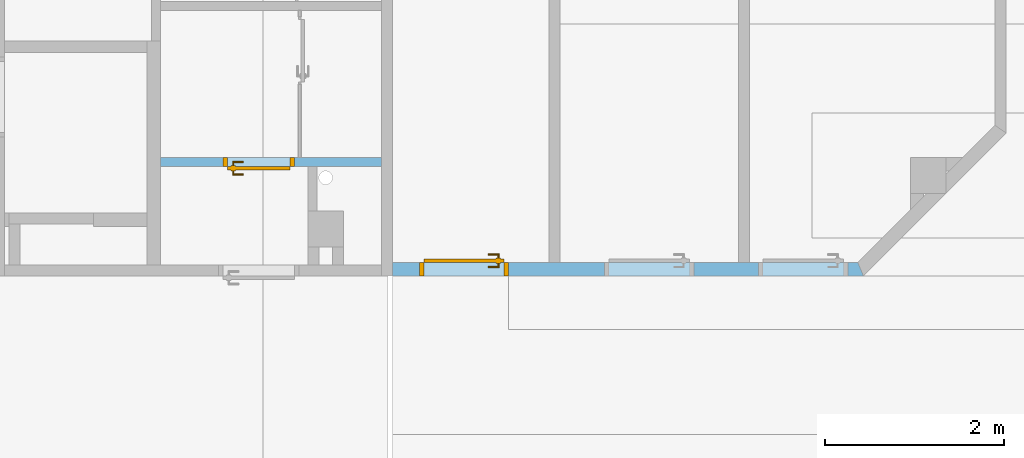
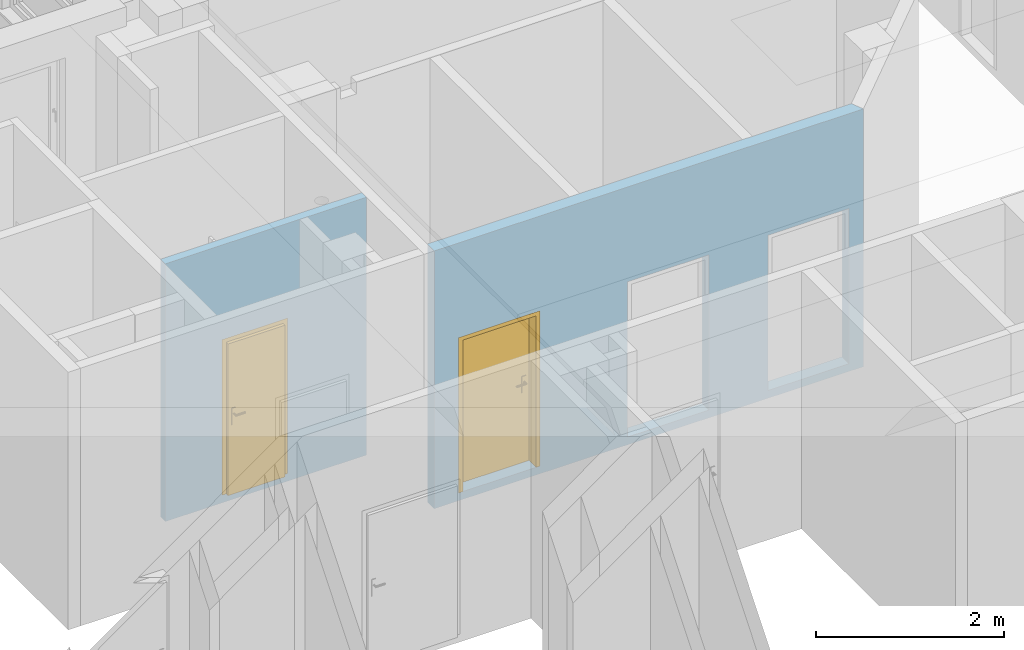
# One storey, part 80 of 140: 2 doors, 4 openings, plus 2 elements that do not belong to this part.
"""IFC4 building model written with IfcOpenShell, lengths in metres."""

from ifc_helpers import new_model, entity, si_unit, converted_unit, derived_unit, frame, frame_2d, origin, origin_with_axes, place, context, subcontext, project, spatial, polyline, rectangle, outline, extrude, closed_shell, open_shell, surface_model, source, transform, mapped, material, layer, layer_set, layer_usage, type_object, element, fill, save


model = new_model("IFC4")

# Units and contexts
model_context = context("Model", 3, precision=1e-05, world=origin())
body_context = subcontext(model_context, "Body", "Model", "MODEL_VIEW")
ifc_project = project(units=[si_unit("LENGTHUNIT", "METRE"), si_unit("AREAUNIT", "SQUARE_METRE"), si_unit("VOLUMEUNIT", "CUBIC_METRE"), si_unit("MASSUNIT", "GRAM", prefix="KILO"), converted_unit("PLANEANGLEUNIT", "DEGREE", entity("IfcPlaneAngleMeasure", 0.0174532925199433), si_unit("PLANEANGLEUNIT", "RADIAN"), dimensions=[0, 0, 0, 0, 0, 0, 0]), derived_unit("THERMALTRANSMITTANCEUNIT", [(si_unit("POWERUNIT", "WATT"), 1), (si_unit("THERMODYNAMICTEMPERATUREUNIT", "KELVIN"), -1), (si_unit("LENGTHUNIT", "METRE"), -2)]), derived_unit("VOLUMETRICFLOWRATEUNIT", [(si_unit("LENGTHUNIT", "METRE"), 3), (converted_unit("TIMEUNIT", "hour", entity("IfcTimeMeasure", 3600.0), si_unit("TIMEUNIT", "SECOND"), dimensions=[0, 0, 1, 0, 0, 0, 0]), -1), (si_unit("LENGTHUNIT", "METRE"), -1)])], contexts=[model_context])

# Site, building, storey
site_placement = place(None, origin())
site = spatial("IfcSite", under=ifc_project, at=site_placement, Name="3. ASŘ", CompositionType="ELEMENT")
building_placement = place(site_placement, origin())
building = spatial("IfcBuilding", under=site, at=building_placement, Name="Pavilon C", CompositionType="ELEMENT")
storey_placement = place(building_placement, origin())
storey = spatial("IfcBuildingStorey", under=building, at=storey_placement, Name="Půdorys 1.NP", CompositionType="ELEMENT", Elevation=0.0)

# Wall, opening, door
ifc_material_1 = material(Name="YTONG 100")
ifc_layer_1 = layer(ifc_material_1, 0.1)
ifc_layer_set_1 = layer_set([ifc_layer_1])
ifc_layer_usage_1 = layer_usage(ifc_layer_set_1, "AXIS2", "POSITIVE", 0.0)
wall_1_placement = place(storey_placement, frame((22.15, 10.9, -0.1)))
wall_1 = element("IfcWall", 1, at=wall_1_placement, inside=storey, material=ifc_layer_usage_1, Name="YTONG 100", context=body_context, shape_type="SweptSolid", body=[
    extrude(rectangle(XDim=2.47499999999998, YDim=0.1, at=frame_2d((1.23749999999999, 0.05), x_axis=(1.0, 0.0))), origin_with_axes(), (0.0, 0.0, 1.0), 3.35),
])
opening_1_placement = place(wall_1_placement, frame((0.699999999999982, 0.0, 0.1), z_axis=(0.0, 1.0, 0.0), x_axis=(0.0, 0.0, 1.0)))
opening_1 = element("IfcOpeningElement", 2, at=opening_1_placement, cuts=wall_1, Name="Dveřní otvor", ObjectType="Opening", context=body_context, shape_type="SweptSolid", body=[
    extrude(outline(polyline([(0.0, 0.8), (2.02, 0.8), (2.02, 0.0), (0.0, 0.0), (0.0, 0.8)])), origin_with_axes(), (0.0, 0.0, 1.0), 0.1),
])
door_type_1 = type_object("IfcDoorType", Name="D101", OperationType="NOTDEFINED", ParameterTakesPrecedence=False, PredefinedType="DOOR")
shared_shape_1 = source(origin_with_axes(), body_context, "Body", "SurfaceModel", [
    surface_model("IfcShellBasedSurfaceModel", [(0.0, 0.1, 2.02), (0.0, 0.1, -6.12323399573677e-18), (0.05, 0.1, -6.12323399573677e-18), (0.05, 0.1, 2.02), (0.0, 0.0, 6.12323399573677e-18), (0.0, 2.41584530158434e-16, 2.02), (0.05, 2.41584530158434e-16, 2.02), (0.05, 0.0, 6.12323399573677e-18)], [closed_shell([[[0, 1, 2, 3]], [[4, 5, 6, 7]], [[1, 0, 5, 4]], [[2, 1, 4, 7]], [[3, 2, 7, 6]], [[0, 3, 6, 5]]], orient=[[False], [False], [False], [False], [False], [False]])]),
    surface_model("IfcShellBasedSurfaceModel", [(0.75, 0.1, 2.02), (0.75, 0.1, -6.12323399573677e-18), (0.8, 0.1, -6.12323399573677e-18), (0.8, 0.1, 2.02), (0.75, 0.0, 6.12323399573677e-18), (0.75, 2.41584530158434e-16, 2.02), (0.8, 2.41584530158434e-16, 2.02), (0.8, 0.0, 6.12323399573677e-18)], [closed_shell([[[0, 1, 2, 3]], [[4, 5, 6, 7]], [[1, 0, 5, 4]], [[2, 1, 4, 7]], [[3, 2, 7, 6]], [[0, 3, 6, 5]]], orient=[[False], [False], [False], [False], [False], [False]])]),
    surface_model("IfcShellBasedSurfaceModel", [(0.05, 0.1, 2.02), (0.05, 0.1, 1.97), (0.75, 0.1, 1.97), (0.75, 0.1, 2.02), (0.05, 2.41584530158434e-16, 1.97), (0.05, 2.41584530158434e-16, 2.02), (0.75, 2.41584530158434e-16, 2.02), (0.75, 2.41584530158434e-16, 1.97)], [closed_shell([[[0, 1, 2, 3]], [[4, 5, 6, 7]], [[1, 0, 5, 4]], [[2, 1, 4, 7]], [[3, 2, 7, 6]], [[0, 3, 6, 5]]], orient=[[False], [False], [False], [False], [False], [False]])]),
    surface_model("IfcShellBasedSurfaceModel", [(0.05, 0.14, 1.97), (0.05, 0.14, -1.10218211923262e-17), (0.75, 0.14, -1.10218211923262e-17), (0.75, 0.14, 1.97), (0.05, 0.1, -6.12323399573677e-18), (0.05, 0.1, 1.97), (0.75, 0.1, 1.97), (0.75, 0.1, -6.12323399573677e-18)], [closed_shell([[[0, 1, 2, 3]], [[4, 5, 6, 7]], [[1, 0, 5, 4]], [[2, 1, 4, 7]], [[3, 2, 7, 6]], [[0, 3, 6, 5]]], orient=[[False], [False], [False], [False], [False], [False]])]),
    surface_model("IfcShellBasedSurfaceModel", [(0.66, 0.1, 1.125), (0.66, 0.1, 0.91), (0.71, 0.1, 0.91), (0.71, 0.1, 1.125), (0.66, 0.0900000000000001, 0.91), (0.66, 0.0900000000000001, 1.125), (0.71, 0.0900000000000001, 1.125), (0.71, 0.0900000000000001, 0.91)], [closed_shell([[[0, 1, 2, 3]], [[4, 5, 6, 7]], [[1, 0, 5, 4]], [[2, 1, 4, 7]], [[3, 2, 7, 6]], [[0, 3, 6, 5]]], orient=[[False], [False], [False], [False], [False], [False]])]),
    surface_model("IfcShellBasedSurfaceModel", [(0.685, 0.0900000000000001, 1.06), (0.68, 0.0900000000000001, 1.05866025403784), (0.676339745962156, 0.0900000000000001, 1.055), (0.675, 0.0900000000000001, 1.05), (0.676339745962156, 0.0900000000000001, 1.045), (0.68, 0.0900000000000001, 1.04133974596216), (0.685, 0.0900000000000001, 1.04), (0.69, 0.0900000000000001, 1.04133974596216), (0.693660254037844, 0.0900000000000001, 1.045), (0.695, 0.0900000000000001, 1.05), (0.693660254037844, 0.0900000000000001, 1.055), (0.69, 0.0900000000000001, 1.05866025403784), (0.69, 0.0450000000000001, 1.05866025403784), (0.685, 0.0500000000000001, 1.06), (0.693660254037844, 0.0413397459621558, 1.055), (0.695, 0.0400000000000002, 1.05), (0.693660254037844, 0.0413397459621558, 1.045), (0.69, 0.0450000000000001, 1.04133974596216), (0.685, 0.0500000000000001, 1.04), (0.68, 0.0550000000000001, 1.04133974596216), (0.676339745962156, 0.0586602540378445, 1.045), (0.675, 0.0600000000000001, 1.05), (0.676339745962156, 0.0586602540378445, 1.055), (0.68, 0.0550000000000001, 1.05866025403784), (0.57, 0.0450000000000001, 1.05866025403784), (0.57, 0.0500000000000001, 1.06), (0.57, 0.0413397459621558, 1.055), (0.57, 0.0400000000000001, 1.05), (0.57, 0.0413397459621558, 1.045), (0.57, 0.0450000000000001, 1.04133974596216), (0.57, 0.0500000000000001, 1.04), (0.57, 0.0550000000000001, 1.04133974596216), (0.57, 0.0586602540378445, 1.045), (0.57, 0.0600000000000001, 1.05), (0.57, 0.0586602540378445, 1.055), (0.57, 0.0550000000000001, 1.05866025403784)], [open_shell([[[0, 1, 2, 3, 4, 5, 6, 7, 8, 9, 10, 11]], [[0, 11, 12, 13]], [[11, 10, 14, 12]], [[10, 9, 15, 14]], [[9, 8, 16, 15]], [[8, 7, 17, 16]], [[7, 6, 18, 17]], [[6, 5, 19, 18]], [[5, 4, 20, 19]], [[4, 3, 21, 20]], [[3, 2, 22, 21]], [[2, 1, 23, 22]], [[1, 0, 13, 23]], [[13, 12, 24, 25]], [[12, 14, 26, 24]], [[14, 15, 27, 26]], [[15, 16, 28, 27]], [[16, 17, 29, 28]], [[17, 18, 30, 29]], [[18, 19, 31, 30]], [[19, 20, 32, 31]], [[20, 21, 33, 32]], [[21, 22, 34, 33]], [[22, 23, 35, 34]], [[23, 13, 25, 35]]], orient=[[False], [False], [False], [False], [False], [False], [False], [False], [False], [False], [False], [False], [False], [False], [False], [False], [False], [False], [False], [False], [False], [False], [False], [False], [False]])]),
    surface_model("IfcShellBasedSurfaceModel", [(0.66, 0.14, 1.125), (0.71, 0.14, 1.125), (0.71, 0.14, 0.91), (0.66, 0.14, 0.91), (0.66, 0.15, 0.91), (0.71, 0.15, 0.91), (0.71, 0.15, 1.125), (0.66, 0.15, 1.125)], [closed_shell([[[0, 1, 2, 3]], [[4, 5, 6, 7]], [[3, 4, 7, 0]], [[2, 5, 4, 3]], [[1, 6, 5, 2]], [[0, 7, 6, 1]]], orient=[[False], [False], [False], [False], [False], [False]])]),
    surface_model("IfcShellBasedSurfaceModel", [(0.685, 0.15, 1.06), (0.69, 0.15, 1.05866025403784), (0.693660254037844, 0.15, 1.055), (0.695, 0.15, 1.05), (0.693660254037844, 0.15, 1.045), (0.69, 0.15, 1.04133974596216), (0.685, 0.15, 1.04), (0.68, 0.15, 1.04133974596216), (0.676339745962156, 0.15, 1.045), (0.675, 0.15, 1.05), (0.676339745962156, 0.15, 1.055), (0.68, 0.15, 1.05866025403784), (0.685, 0.19, 1.06), (0.69, 0.195, 1.05866025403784), (0.693660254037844, 0.198660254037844, 1.055), (0.695, 0.2, 1.05), (0.693660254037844, 0.198660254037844, 1.045), (0.69, 0.195, 1.04133974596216), (0.685, 0.19, 1.04), (0.68, 0.185, 1.04133974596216), (0.676339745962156, 0.181339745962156, 1.045), (0.675, 0.18, 1.05), (0.676339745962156, 0.181339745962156, 1.055), (0.68, 0.185, 1.05866025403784), (0.57, 0.19, 1.06), (0.57, 0.195, 1.05866025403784), (0.57, 0.198660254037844, 1.055), (0.57, 0.2, 1.05), (0.57, 0.198660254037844, 1.045), (0.57, 0.195, 1.04133974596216), (0.57, 0.19, 1.04), (0.57, 0.185, 1.04133974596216), (0.57, 0.181339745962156, 1.045), (0.57, 0.18, 1.05), (0.57, 0.181339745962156, 1.055), (0.57, 0.185, 1.05866025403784)], [open_shell([[[0, 1, 2, 3, 4, 5, 6, 7, 8, 9, 10, 11]], [[0, 12, 13, 1]], [[1, 13, 14, 2]], [[2, 14, 15, 3]], [[3, 15, 16, 4]], [[4, 16, 17, 5]], [[5, 17, 18, 6]], [[6, 18, 19, 7]], [[7, 19, 20, 8]], [[8, 20, 21, 9]], [[9, 21, 22, 10]], [[10, 22, 23, 11]], [[11, 23, 12, 0]], [[12, 24, 25, 13]], [[13, 25, 26, 14]], [[14, 26, 27, 15]], [[15, 27, 28, 16]], [[16, 28, 29, 17]], [[17, 29, 30, 18]], [[18, 30, 31, 19]], [[19, 31, 32, 20]], [[20, 32, 33, 21]], [[21, 33, 34, 22]], [[22, 34, 35, 23]], [[23, 35, 24, 12]]], orient=[[False], [False], [False], [False], [False], [False], [False], [False], [False], [False], [False], [False], [False], [False], [False], [False], [False], [False], [False], [False], [False], [False], [False], [False], [False]])]),
])
door_1_placement = place(opening_1_placement, frame((0.0, 0.8, 0.1), z_axis=(1.0, 0.0, 0.0), x_axis=(0.0, -1.0, 1.22464679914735e-16)))
door_1 = element("IfcDoor", 3, at=door_1_placement, inside=storey, type_object=door_type_1, Name="D101", OverallHeight=2.02, OverallWidth=0.8, context=body_context, shape_type="MappedRepresentation", body=[
    mapped(shared_shape_1, transform((0.0, 0.0, 0.0), x_axis=(1.0, 0.0, 0.0), y_axis=(0.0, 1.0, 0.0), z_axis=(0.0, 0.0, 1.0), scale=1.0)),
])
fill(opening_1, door_1)

# Wall, openings, door
ifc_material_2 = material(Name="YTONG 150")
ifc_layer_2 = layer(ifc_material_2, 0.15)
ifc_layer_set_2 = layer_set([ifc_layer_2])
ifc_layer_usage_2 = layer_usage(ifc_layer_set_2, "AXIS2", "POSITIVE", 0.0)
wall_2_placement = place(storey_placement, frame((24.75, 9.675, -0.1)))
wall_2 = element("IfcWall", 4, at=wall_2_placement, inside=storey, material=ifc_layer_usage_2, Name="YTONG 150", context=body_context, shape_type="SweptSolid", body=[
    extrude(outline(polyline([(0.0, 0.0), (5.275, 0.0), (5.21286796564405, 0.15), (0.0, 0.15), (0.0, 0.0)])), origin_with_axes(), (0.0, 0.0, 1.0), 3.35),
])
opening_2_placement = place(wall_2_placement, frame((0.3, 0.0, 0.1), z_axis=(0.0, 1.0, 0.0), x_axis=(0.0, 0.0, 1.0)))
opening_2 = element("IfcOpeningElement", 5, at=opening_2_placement, cuts=wall_2, Name="Dveřní otvor", ObjectType="Opening", context=body_context, shape_type="SweptSolid", body=[
    extrude(outline(polyline([(0.0, 1.0), (2.02, 1.0), (2.02, 0.0), (0.0, 0.0), (0.0, 1.0)])), origin_with_axes(), (0.0, 0.0, 1.0), 0.15),
])
opening_3_placement = place(wall_2_placement, frame((3.375, 0.15, 0.1), z_axis=(0.0, -1.0, 0.0), x_axis=(0.0, 0.0, 1.0)))
element("IfcOpeningElement", 6, at=opening_3_placement, cuts=wall_2, Name="Dveřní otvor", ObjectType="Opening", context=body_context, shape_type="SweptSolid", body=[
    extrude(outline(polyline([(0.0, 1.0), (2.02, 1.0), (2.02, 0.0), (0.0, 0.0), (0.0, 1.0)])), origin_with_axes(), (0.0, 0.0, 1.0), 0.15),
])
opening_4_placement = place(wall_2_placement, frame((5.1, 0.15, 0.1), z_axis=(0.0, -1.0, 0.0), x_axis=(0.0, 0.0, 1.0)))
element("IfcOpeningElement", 7, at=opening_4_placement, cuts=wall_2, Name="Dveřní otvor", ObjectType="Opening", context=body_context, shape_type="SweptSolid", body=[
    extrude(outline(polyline([(0.0, 1.0), (2.02, 1.0), (2.02, 0.0), (0.0, 0.0), (0.0, 1.0)])), origin_with_axes(), (0.0, 0.0, 1.0), 0.15),
])
door_type_2 = type_object("IfcDoorType", Name="D101", OperationType="NOTDEFINED", ParameterTakesPrecedence=False, PredefinedType="DOOR")
shared_shape_2 = source(origin_with_axes(), body_context, "Body", "SurfaceModel", [
    surface_model("IfcShellBasedSurfaceModel", [(0.0, 0.15, 2.02), (0.0, 0.15, -9.18485099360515e-18), (0.05, 0.15, -9.18485099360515e-18), (0.05, 0.15, 2.02), (0.0, 0.0, 9.18485099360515e-18), (0.0, 2.55795384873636e-16, 2.02), (0.05, 2.55795384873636e-16, 2.02), (0.05, 0.0, 9.18485099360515e-18)], [closed_shell([[[0, 1, 2, 3]], [[4, 5, 6, 7]], [[1, 0, 5, 4]], [[2, 1, 4, 7]], [[3, 2, 7, 6]], [[0, 3, 6, 5]]], orient=[[False], [False], [False], [False], [False], [False]])]),
    surface_model("IfcShellBasedSurfaceModel", [(0.95, 0.15, 2.02), (0.95, 0.15, -9.18485099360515e-18), (1.0, 0.15, -9.18485099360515e-18), (1.0, 0.15, 2.02), (0.95, 0.0, 9.18485099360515e-18), (0.95, 2.55795384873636e-16, 2.02), (1.0, 2.55795384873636e-16, 2.02), (1.0, 0.0, 9.18485099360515e-18)], [closed_shell([[[0, 1, 2, 3]], [[4, 5, 6, 7]], [[1, 0, 5, 4]], [[2, 1, 4, 7]], [[3, 2, 7, 6]], [[0, 3, 6, 5]]], orient=[[False], [False], [False], [False], [False], [False]])]),
    surface_model("IfcShellBasedSurfaceModel", [(0.05, 0.15, 2.02), (0.05, 0.15, 1.97), (0.95, 0.15, 1.97), (0.95, 0.15, 2.02), (0.05, 2.27373675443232e-16, 1.97), (0.05, 2.27373675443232e-16, 2.02), (0.95, 2.27373675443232e-16, 2.02), (0.95, 2.27373675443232e-16, 1.97)], [closed_shell([[[0, 1, 2, 3]], [[4, 5, 6, 7]], [[1, 0, 5, 4]], [[2, 1, 4, 7]], [[3, 2, 7, 6]], [[0, 3, 6, 5]]], orient=[[False], [False], [False], [False], [False], [False]])]),
    surface_model("IfcShellBasedSurfaceModel", [(0.05, 0.19, 1.97), (0.05, 0.19, -1.40834381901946e-17), (0.95, 0.19, -1.40834381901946e-17), (0.95, 0.19, 1.97), (0.05, 0.15, -9.18485099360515e-18), (0.05, 0.15, 1.97), (0.95, 0.15, 1.97), (0.95, 0.15, -9.18485099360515e-18)], [closed_shell([[[0, 1, 2, 3]], [[4, 5, 6, 7]], [[1, 0, 5, 4]], [[2, 1, 4, 7]], [[3, 2, 7, 6]], [[0, 3, 6, 5]]], orient=[[False], [False], [False], [False], [False], [False]])]),
    surface_model("IfcShellBasedSurfaceModel", [(0.86, 0.15, 1.125), (0.86, 0.15, 0.91), (0.91, 0.15, 0.91), (0.91, 0.15, 1.125), (0.86, 0.14, 0.91), (0.86, 0.14, 1.125), (0.91, 0.14, 1.125), (0.91, 0.14, 0.91)], [closed_shell([[[0, 1, 2, 3]], [[4, 5, 6, 7]], [[1, 0, 5, 4]], [[2, 1, 4, 7]], [[3, 2, 7, 6]], [[0, 3, 6, 5]]], orient=[[False], [False], [False], [False], [False], [False]])]),
    surface_model("IfcShellBasedSurfaceModel", [(0.885, 0.14, 1.06), (0.88, 0.14, 1.05866025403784), (0.876339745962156, 0.14, 1.055), (0.875, 0.14, 1.05), (0.876339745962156, 0.14, 1.045), (0.88, 0.14, 1.04133974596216), (0.885, 0.14, 1.04), (0.89, 0.14, 1.04133974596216), (0.893660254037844, 0.14, 1.045), (0.895, 0.14, 1.05), (0.893660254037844, 0.14, 1.055), (0.89, 0.14, 1.05866025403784), (0.89, 0.0950000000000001, 1.05866025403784), (0.885, 0.1, 1.06), (0.893660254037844, 0.0913397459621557, 1.055), (0.895, 0.0900000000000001, 1.05), (0.893660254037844, 0.0913397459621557, 1.045), (0.89, 0.0950000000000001, 1.04133974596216), (0.885, 0.1, 1.04), (0.88, 0.105, 1.04133974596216), (0.876339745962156, 0.108660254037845, 1.045), (0.875, 0.11, 1.05), (0.876339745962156, 0.108660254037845, 1.055), (0.88, 0.105, 1.05866025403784), (0.77, 0.0950000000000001, 1.05866025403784), (0.77, 0.1, 1.06), (0.77, 0.0913397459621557, 1.055), (0.77, 0.0900000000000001, 1.05), (0.77, 0.0913397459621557, 1.045), (0.77, 0.0950000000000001, 1.04133974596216), (0.77, 0.1, 1.04), (0.77, 0.105, 1.04133974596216), (0.77, 0.108660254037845, 1.045), (0.77, 0.11, 1.05), (0.77, 0.108660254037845, 1.055), (0.77, 0.105, 1.05866025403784)], [open_shell([[[0, 1, 2, 3, 4, 5, 6, 7, 8, 9, 10, 11]], [[0, 11, 12, 13]], [[11, 10, 14, 12]], [[10, 9, 15, 14]], [[9, 8, 16, 15]], [[8, 7, 17, 16]], [[7, 6, 18, 17]], [[6, 5, 19, 18]], [[5, 4, 20, 19]], [[4, 3, 21, 20]], [[3, 2, 22, 21]], [[2, 1, 23, 22]], [[1, 0, 13, 23]], [[13, 12, 24, 25]], [[12, 14, 26, 24]], [[14, 15, 27, 26]], [[15, 16, 28, 27]], [[16, 17, 29, 28]], [[17, 18, 30, 29]], [[18, 19, 31, 30]], [[19, 20, 32, 31]], [[20, 21, 33, 32]], [[21, 22, 34, 33]], [[22, 23, 35, 34]], [[23, 13, 25, 35]]], orient=[[False], [False], [False], [False], [False], [False], [False], [False], [False], [False], [False], [False], [False], [False], [False], [False], [False], [False], [False], [False], [False], [False], [False], [False], [False]])]),
    surface_model("IfcShellBasedSurfaceModel", [(0.86, 0.19, 1.125), (0.91, 0.19, 1.125), (0.91, 0.19, 0.91), (0.86, 0.19, 0.91), (0.86, 0.2, 0.91), (0.91, 0.2, 0.91), (0.91, 0.2, 1.125), (0.86, 0.2, 1.125)], [closed_shell([[[0, 1, 2, 3]], [[4, 5, 6, 7]], [[3, 4, 7, 0]], [[2, 5, 4, 3]], [[1, 6, 5, 2]], [[0, 7, 6, 1]]], orient=[[False], [False], [False], [False], [False], [False]])]),
    surface_model("IfcShellBasedSurfaceModel", [(0.885, 0.2, 1.06), (0.89, 0.2, 1.05866025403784), (0.893660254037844, 0.2, 1.055), (0.895, 0.2, 1.05), (0.893660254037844, 0.2, 1.045), (0.89, 0.2, 1.04133974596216), (0.885, 0.2, 1.04), (0.88, 0.2, 1.04133974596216), (0.876339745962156, 0.2, 1.045), (0.875, 0.2, 1.05), (0.876339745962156, 0.2, 1.055), (0.88, 0.2, 1.05866025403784), (0.885, 0.24, 1.06), (0.89, 0.245, 1.05866025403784), (0.893660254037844, 0.248660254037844, 1.055), (0.895, 0.25, 1.05), (0.893660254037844, 0.248660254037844, 1.045), (0.89, 0.245, 1.04133974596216), (0.885, 0.24, 1.04), (0.88, 0.235, 1.04133974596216), (0.876339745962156, 0.231339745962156, 1.045), (0.875, 0.23, 1.05), (0.876339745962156, 0.231339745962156, 1.055), (0.88, 0.235, 1.05866025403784), (0.77, 0.24, 1.06), (0.77, 0.245, 1.05866025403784), (0.77, 0.248660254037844, 1.055), (0.77, 0.25, 1.05), (0.77, 0.248660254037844, 1.045), (0.77, 0.245, 1.04133974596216), (0.77, 0.24, 1.04), (0.77, 0.235, 1.04133974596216), (0.77, 0.231339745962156, 1.045), (0.77, 0.23, 1.05), (0.77, 0.231339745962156, 1.055), (0.77, 0.235, 1.05866025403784)], [open_shell([[[0, 1, 2, 3, 4, 5, 6, 7, 8, 9, 10, 11]], [[0, 12, 13, 1]], [[1, 13, 14, 2]], [[2, 14, 15, 3]], [[3, 15, 16, 4]], [[4, 16, 17, 5]], [[5, 17, 18, 6]], [[6, 18, 19, 7]], [[7, 19, 20, 8]], [[8, 20, 21, 9]], [[9, 21, 22, 10]], [[10, 22, 23, 11]], [[11, 23, 12, 0]], [[12, 24, 25, 13]], [[13, 25, 26, 14]], [[14, 26, 27, 15]], [[15, 27, 28, 16]], [[16, 28, 29, 17]], [[17, 29, 30, 18]], [[18, 30, 31, 19]], [[19, 31, 32, 20]], [[20, 32, 33, 21]], [[21, 33, 34, 22]], [[22, 34, 35, 23]], [[23, 35, 24, 12]]], orient=[[False], [False], [False], [False], [False], [False], [False], [False], [False], [False], [False], [False], [False], [False], [False], [False], [False], [False], [False], [False], [False], [False], [False], [False], [False]])]),
])
door_2_placement = place(opening_2_placement, frame((0.0, 0.0, 0.0), z_axis=(1.0, 0.0, 0.0), x_axis=(0.0, 1.0, 0.0)))
door_2 = element("IfcDoor", 8, at=door_2_placement, inside=storey, type_object=door_type_2, Name="D101", OverallHeight=2.02, OverallWidth=1.0, context=body_context, shape_type="MappedRepresentation", body=[
    mapped(shared_shape_2, transform((0.0, 0.0, 0.0), x_axis=(1.0, 0.0, 0.0), y_axis=(0.0, 1.0, 0.0), z_axis=(0.0, 0.0, 1.0), scale=1.0)),
])
fill(opening_2, door_2)

save(model, "model.ifc")
